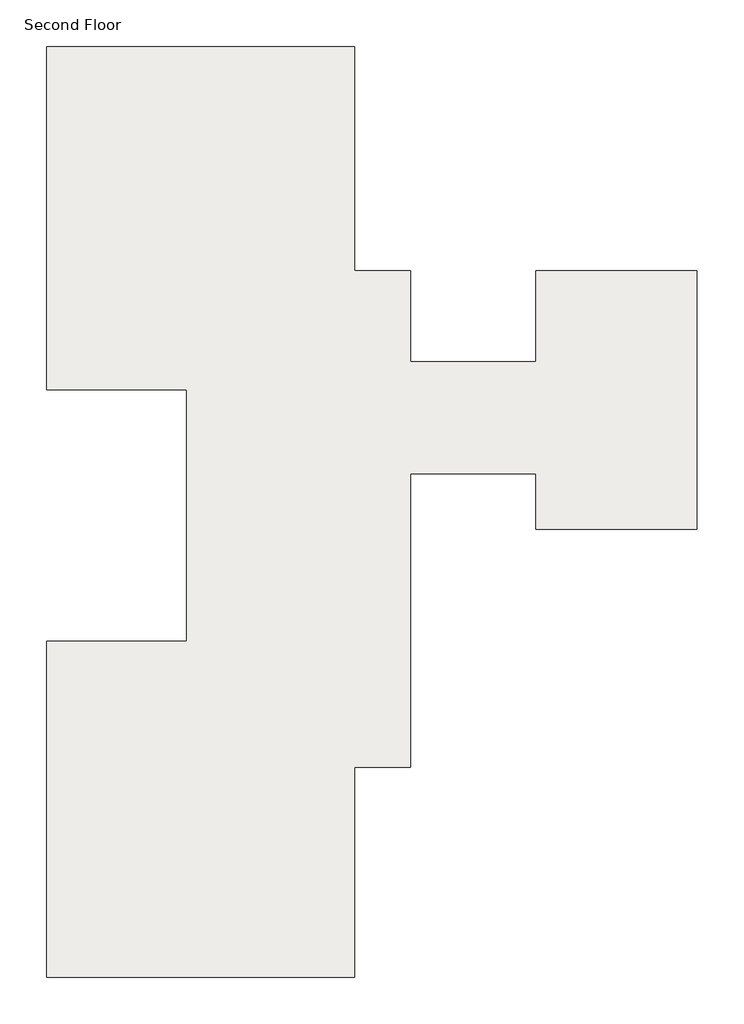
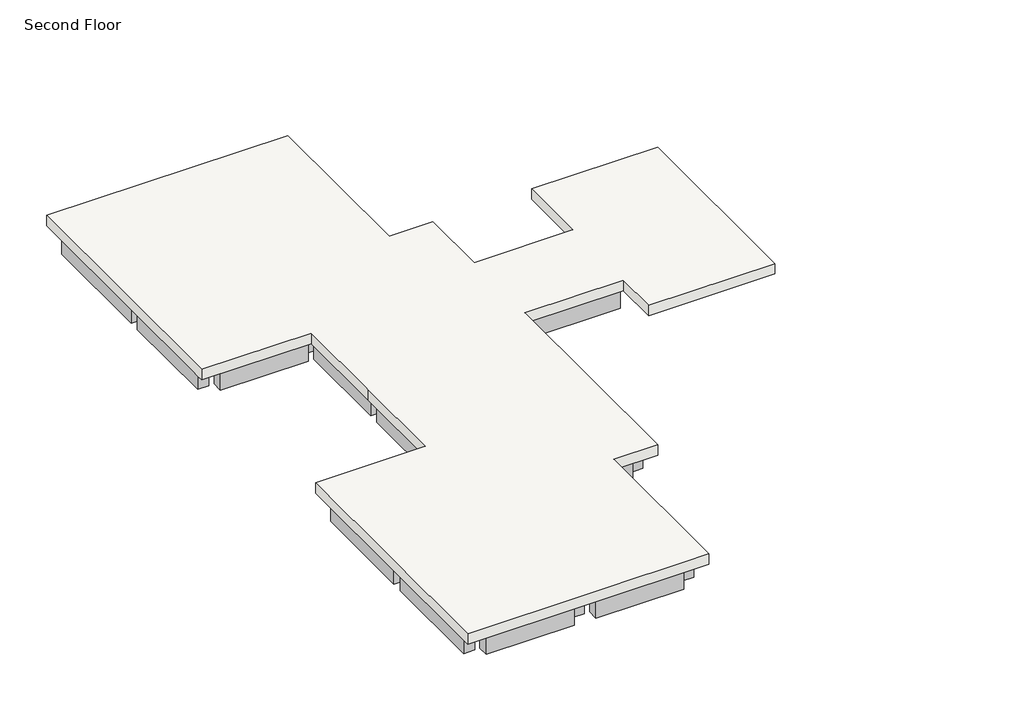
# One storey: 37 beams, 1 slab.
"""IFC4 building model written with IfcOpenShell, lengths in millimetres."""

from ifc_helpers import new_model, si_unit, frame, origin, place, context, project, spatial, polyline, outline, extrude, faceted_brep, element, save

model = new_model("IFC4")

# Units and contexts
model_context = context("Model", 3, world=origin())
ifc_project = project(units=[si_unit("LENGTHUNIT", "METRE", prefix="MILLI")], contexts=[model_context])

# Site, building, storey
site = spatial("IfcSite", under=ifc_project)
building = spatial("IfcBuilding", under=site)
storey = spatial("IfcBuildingStorey", under=building, Name="Second Floor", Elevation=3810.0)

# Beams
placement = place(None, origin())
element("IfcBeam", 1, ObjectType="Concrete-Rectangular Beam : 12 x 24", at=placement, inside=storey, context=model_context, shape_type="SweptSolid", body=[
    extrude(outline(polyline([(-20351.2093661, 22096.7691779), (-20351.2093661, 22401.5691779), (-17912.8093661, 22401.5691779), (-17912.8093661, 22096.7691779), (-20351.2093661, 22096.7691779)])), frame((0.0, 0.0, 2895.6), z_axis=(0.0, 0.0, 1.0), x_axis=(1.0, 0.0, 0.0)), (0.0, 0.0, 1.0), 609.6),
])
element("IfcBeam", 2, ObjectType="Concrete-Rectangular Beam : 12 x 24", at=placement, inside=storey, context=model_context, shape_type="SweptSolid", body=[
    extrude(outline(polyline([(-17303.2093661, 22096.7691779), (-17303.2093661, 22401.5691779), (-14864.8093661, 22401.5691779), (-14864.8093661, 22096.7691779), (-17303.2093661, 22096.7691779)])), frame((0.0, 0.0, 2895.6), z_axis=(0.0, 0.0, 1.0), x_axis=(1.0, 0.0, 0.0)), (0.0, 0.0, 1.0), 609.6),
])
element("IfcBeam", 3, ObjectType="Concrete-Rectangular Beam : 12 x 24", at=placement, inside=storey, context=model_context, shape_type="SweptSolid", body=[
    extrude(outline(polyline([(-14712.4093661, 22096.7691779), (-14407.6093661, 22096.7691779), (-14407.6093661, 18743.9691779), (-14712.4093661, 18743.9691779), (-14712.4093661, 22096.7691779)])), frame((0.0, 0.0, 2895.6), z_axis=(0.0, 0.0, 1.0), x_axis=(1.0, 0.0, 0.0)), (0.0, 0.0, 1.0), 609.6),
])
element("IfcBeam", 4, ObjectType="Concrete-Rectangular Beam : 12 x 24", at=placement, inside=storey, context=model_context, shape_type="Brep", body=[
    faceted_brep([(-14712.4093661, 17219.9691779, 3505.2), (-14407.6093661, 17219.9691779, 3505.2), (-14407.6093661, 17524.7691779, 3505.2), (-14407.6093661, 18439.1691779, 3505.2), (-14712.4093661, 18439.1691779, 3505.2), (-14712.4093661, 17219.9691779, 2895.6), (-14712.4093661, 18439.1691779, 2895.6), (-14407.6093661, 17219.9691779, 2895.6), (-14407.6093661, 18439.1691779, 2895.6), (-14407.6093661, 17524.7691779, 2895.6)], [[[0, 1, 2, 3, 4]], [[5, 0, 4, 6]], [[7, 5, 6, 8, 9]], [[1, 7, 9, 8, 3, 2]], [[4, 3, 8, 6]], [[1, 0, 5, 7]]]),
])
element("IfcBeam", 5, ObjectType="Concrete-Rectangular Beam : 12 x 24", at=placement, inside=storey, context=model_context, shape_type="SweptSolid", body=[
    extrude(outline(polyline([(-14407.6093661, 17219.9691779), (-14407.6093661, 17524.7691779), (-13645.6093661, 17524.7691779), (-13645.6093661, 17219.9691779), (-14407.6093661, 17219.9691779)])), frame((0.0, 0.0, 2895.6), z_axis=(0.0, 0.0, 1.0), x_axis=(1.0, 0.0, 0.0)), (0.0, 0.0, 1.0), 609.6),
])
element("IfcBeam", 6, ObjectType="Concrete-Rectangular Beam : 12 x 24", at=placement, inside=storey, context=model_context, shape_type="SweptSolid", body=[
    extrude(outline(polyline([(-13493.2093661, 17219.9691779), (-13188.4093661, 17219.9691779), (-13188.4093661, 15543.5691779), (-13493.2093661, 15543.5691779), (-13493.2093661, 17219.9691779)])), frame((0.0, 0.0, 2895.6), z_axis=(0.0, 0.0, 1.0), x_axis=(1.0, 0.0, 0.0)), (0.0, 0.0, 1.0), 609.6),
])
element("IfcBeam", 7, ObjectType="Concrete-Rectangular Beam : 12 x 24", at=placement, inside=storey, context=model_context, shape_type="Brep", body=[
    faceted_brep([(-13188.4093661, 15238.7691779, 3505.2), (-13493.2093661, 15238.7691779, 3505.2), (-13493.2093661, 12495.5691779, 3505.2), (-13188.4093661, 12495.5691779, 3505.2), (-13188.4093661, 13409.9691779, 3505.2), (-13188.4093661, 13714.7691779, 3505.2), (-13493.2093661, 15238.7691779, 2895.6), (-13493.2093661, 12495.5691779, 2895.6), (-13188.4093661, 15238.7691779, 2895.6), (-13188.4093661, 13714.7691779, 2895.6), (-13188.4093661, 13409.9691779, 2895.6), (-13188.4093661, 12495.5691779, 2895.6)], [[[0, 1, 2, 3, 4, 5]], [[1, 6, 7, 2]], [[6, 8, 9, 10, 11, 7]], [[8, 0, 5, 4, 3, 11, 10, 9]], [[6, 1, 0, 8]], [[3, 2, 7, 11]]]),
])
element("IfcBeam", 8, ObjectType="Concrete-Rectangular Beam : 12 x 24", at=placement, inside=storey, context=model_context, shape_type="SweptSolid", body=[
    extrude(outline(polyline([(-13493.2093661, 12190.7691779), (-13188.4093661, 12190.7691779), (-13188.4093661, 9447.5691779), (-13493.2093661, 9447.5691779), (-13493.2093661, 12190.7691779)])), frame((0.0, 0.0, 2895.6), z_axis=(0.0, 0.0, 1.0), x_axis=(1.0, 0.0, 0.0)), (0.0, 0.0, 1.0), 609.6),
])
element("IfcBeam", 9, ObjectType="Concrete-Rectangular Beam : 12 x 24", at=placement, inside=storey, context=model_context, shape_type="SweptSolid", body=[
    extrude(outline(polyline([(-13493.2093661, 9142.7691779), (-13188.4093661, 9142.7691779), (-13188.4093661, 7313.9691779), (-13493.2093661, 7313.9691779), (-13493.2093661, 9142.7691779)])), frame((0.0, 0.0, 2895.6), z_axis=(0.0, 0.0, 1.0), x_axis=(1.0, 0.0, 0.0)), (0.0, 0.0, 1.0), 609.6),
])
element("IfcBeam", 10, ObjectType="Concrete-Rectangular Beam : 12 x 24", at=placement, inside=storey, context=model_context, shape_type="Brep", body=[
    faceted_brep([(-14712.4093661, 7313.9691779, 3505.2), (-14712.4093661, 7009.1691779, 3505.2), (-14407.6093661, 7009.1691779, 3505.2), (-13645.6093661, 7009.1691779, 3505.2), (-13645.6093661, 7313.9691779, 3505.2), (-14712.4093661, 7313.9691779, 2895.6), (-13645.6093661, 7313.9691779, 2895.6), (-14712.4093661, 7009.1691779, 2895.6), (-13645.6093661, 7009.1691779, 2895.6), (-14407.6093661, 7009.1691779, 2895.6)], [[[0, 1, 2, 3, 4]], [[5, 0, 4, 6]], [[7, 5, 6, 8, 9]], [[1, 7, 9, 8, 3, 2]], [[4, 3, 8, 6]], [[1, 0, 5, 7]]]),
])
element("IfcBeam", 11, ObjectType="Concrete-Rectangular Beam : 12 x 24", at=placement, inside=storey, context=model_context, shape_type="SweptSolid", body=[
    extrude(outline(polyline([(-14712.4093661, 7009.1691779), (-14407.6093661, 7009.1691779), (-14407.6093661, 6094.7691779), (-14712.4093661, 6094.7691779), (-14712.4093661, 7009.1691779)])), frame((0.0, 0.0, 2895.6), z_axis=(0.0, 0.0, 1.0), x_axis=(1.0, 0.0, 0.0)), (0.0, 0.0, 1.0), 609.6),
])
element("IfcBeam", 12, ObjectType="Concrete-Rectangular Beam : 12 x 24", at=placement, inside=storey, context=model_context, shape_type="SweptSolid", body=[
    extrude(outline(polyline([(-14407.6093661, 2741.9691779), (-14712.4093661, 2741.9691779), (-14712.4093661, 5789.9691779), (-14407.6093661, 5789.9691779), (-14407.6093661, 2741.9691779)])), frame((0.0, 0.0, 2895.6), z_axis=(0.0, 0.0, 1.0), x_axis=(1.0, 0.0, 0.0)), (0.0, 0.0, 1.0), 609.6),
])
element("IfcBeam", 13, ObjectType="Concrete-Rectangular Beam : 12 x 24", at=placement, inside=storey, context=model_context, shape_type="SweptSolid", body=[
    extrude(outline(polyline([(-17303.2093661, 2437.1691779), (-17303.2093661, 2741.9691779), (-14864.8093661, 2741.9691779), (-14864.8093661, 2437.1691779), (-17303.2093661, 2437.1691779)])), frame((0.0, 0.0, 2895.6), z_axis=(0.0, 0.0, 1.0), x_axis=(1.0, 0.0, 0.0)), (0.0, 0.0, 1.0), 609.6),
])
element("IfcBeam", 14, ObjectType="Concrete-Rectangular Beam : 12 x 24", at=placement, inside=storey, context=model_context, shape_type="SweptSolid", body=[
    extrude(outline(polyline([(-20351.2093661, 2437.1691779), (-20351.2093661, 2741.9691779), (-17912.8093661, 2741.9691779), (-17912.8093661, 2437.1691779), (-20351.2093661, 2437.1691779)])), frame((0.0, 0.0, 2895.6), z_axis=(0.0, 0.0, 1.0), x_axis=(1.0, 0.0, 0.0)), (0.0, 0.0, 1.0), 609.6),
])
element("IfcBeam", 15, ObjectType="Concrete-Rectangular Beam : 12 x 24", at=placement, inside=storey, context=model_context, shape_type="SweptSolid", body=[
    extrude(outline(polyline([(-20503.6093661, 2741.9691779), (-20808.4093661, 2741.9691779), (-20808.4093661, 5789.9691779), (-20503.6093661, 5789.9691779), (-20503.6093661, 2741.9691779)])), frame((0.0, 0.0, 2895.6), z_axis=(0.0, 0.0, 1.0), x_axis=(1.0, 0.0, 0.0)), (0.0, 0.0, 1.0), 609.6),
])
element("IfcBeam", 16, ObjectType="Concrete-Rectangular Beam : 12 x 24", at=placement, inside=storey, context=model_context, shape_type="SweptSolid", body=[
    extrude(outline(polyline([(-20808.4093661, 9142.7691779), (-20503.6093661, 9142.7691779), (-20503.6093661, 6094.7691779), (-20808.4093661, 6094.7691779), (-20808.4093661, 9142.7691779)])), frame((0.0, 0.0, 2895.6), z_axis=(0.0, 0.0, 1.0), x_axis=(1.0, 0.0, 0.0)), (0.0, 0.0, 1.0), 609.6),
])
element("IfcBeam", 17, ObjectType="Concrete-Rectangular Beam : 12 x 24", at=placement, inside=storey, context=model_context, shape_type="SweptSolid", body=[
    extrude(outline(polyline([(-20351.2093661, 9142.7691779), (-20351.2093661, 9447.5691779), (-17912.8093661, 9447.5691779), (-17912.8093661, 9142.7691779), (-20351.2093661, 9142.7691779)])), frame((0.0, 0.0, 2895.6), z_axis=(0.0, 0.0, 1.0), x_axis=(1.0, 0.0, 0.0)), (0.0, 0.0, 1.0), 609.6),
])
element("IfcBeam", 18, ObjectType="Concrete-Rectangular Beam : 12 x 24", at=placement, inside=storey, context=model_context, shape_type="SweptSolid", body=[
    extrude(outline(polyline([(-17760.4093661, 9142.7691779), (-17455.6093661, 9142.7691779), (-17455.6093661, 6094.7691779), (-17760.4093661, 6094.7691779), (-17760.4093661, 9142.7691779)])), frame((0.0, 0.0, 2895.6), z_axis=(0.0, 0.0, 1.0), x_axis=(1.0, 0.0, 0.0)), (0.0, 0.0, 1.0), 609.6),
])
element("IfcBeam", 19, ObjectType="Concrete-Rectangular Beam : 12 x 24", at=placement, inside=storey, context=model_context, shape_type="SweptSolid", body=[
    extrude(outline(polyline([(-17455.6093661, 2741.9691779), (-17760.4093661, 2741.9691779), (-17760.4093661, 5789.9691779), (-17455.6093661, 5789.9691779), (-17455.6093661, 2741.9691779)])), frame((0.0, 0.0, 2895.6), z_axis=(0.0, 0.0, 1.0), x_axis=(1.0, 0.0, 0.0)), (0.0, 0.0, 1.0), 609.6),
])
element("IfcBeam", 20, ObjectType="Concrete-Rectangular Beam : 12 x 24", at=placement, inside=storey, context=model_context, shape_type="SweptSolid", body=[
    extrude(outline(polyline([(-17455.6093661, 9447.5691779), (-17760.4093661, 9447.5691779), (-17760.4093661, 12190.7691779), (-17455.6093661, 12190.7691779), (-17455.6093661, 9447.5691779)])), frame((0.0, 0.0, 2895.6), z_axis=(0.0, 0.0, 1.0), x_axis=(1.0, 0.0, 0.0)), (0.0, 0.0, 1.0), 609.6),
])
element("IfcBeam", 21, ObjectType="Concrete-Rectangular Beam : 12 x 24", at=placement, inside=storey, context=model_context, shape_type="SweptSolid", body=[
    extrude(outline(polyline([(-17760.4093661, 15238.7691779), (-17455.6093661, 15238.7691779), (-17455.6093661, 12495.5691779), (-17760.4093661, 12495.5691779), (-17760.4093661, 15238.7691779)])), frame((0.0, 0.0, 2895.6), z_axis=(0.0, 0.0, 1.0), x_axis=(1.0, 0.0, 0.0)), (0.0, 0.0, 1.0), 609.6),
])
element("IfcBeam", 22, ObjectType="Concrete-Rectangular Beam : 12 x 24", at=placement, inside=storey, context=model_context, shape_type="SweptSolid", body=[
    extrude(outline(polyline([(-20351.2093661, 15238.7691779), (-20351.2093661, 15543.5691779), (-17912.8093661, 15543.5691779), (-17912.8093661, 15238.7691779), (-20351.2093661, 15238.7691779)])), frame((0.0, 0.0, 2895.6), z_axis=(0.0, 0.0, 1.0), x_axis=(1.0, 0.0, 0.0)), (0.0, 0.0, 1.0), 609.6),
])
element("IfcBeam", 23, ObjectType="Concrete-Rectangular Beam : 12 x 24", at=placement, inside=storey, context=model_context, shape_type="SweptSolid", body=[
    extrude(outline(polyline([(-20503.6093661, 15543.5691779), (-20808.4093661, 15543.5691779), (-20808.4093661, 18439.1691779), (-20503.6093661, 18439.1691779), (-20503.6093661, 15543.5691779)])), frame((0.0, 0.0, 2895.6), z_axis=(0.0, 0.0, 1.0), x_axis=(1.0, 0.0, 0.0)), (0.0, 0.0, 1.0), 609.6),
])
element("IfcBeam", 24, ObjectType="Concrete-Rectangular Beam : 12 x 24", at=placement, inside=storey, context=model_context, shape_type="SweptSolid", body=[
    extrude(outline(polyline([(-20808.4093661, 22096.7691779), (-20503.6093661, 22096.7691779), (-20503.6093661, 18743.9691779), (-20808.4093661, 18743.9691779), (-20808.4093661, 22096.7691779)])), frame((0.0, 0.0, 2895.6), z_axis=(0.0, 0.0, 1.0), x_axis=(1.0, 0.0, 0.0)), (0.0, 0.0, 1.0), 609.6),
])
element("IfcBeam", 25, ObjectType="Concrete-Rectangular Beam : 12 x 24", at=placement, inside=storey, context=model_context, shape_type="SweptSolid", body=[
    extrude(outline(polyline([(-20351.2093661, 18439.1691779), (-20351.2093661, 18743.9691779), (-17912.8093661, 18743.9691779), (-17912.8093661, 18439.1691779), (-20351.2093661, 18439.1691779)])), frame((0.0, 0.0, 2895.6), z_axis=(0.0, 0.0, 1.0), x_axis=(1.0, 0.0, 0.0)), (0.0, 0.0, 1.0), 609.6),
])
element("IfcBeam", 26, ObjectType="Concrete-Rectangular Beam : 12 x 24", at=placement, inside=storey, context=model_context, shape_type="SweptSolid", body=[
    extrude(outline(polyline([(-17455.6093661, 18743.9691779), (-17760.4093661, 18743.9691779), (-17760.4093661, 22096.7691779), (-17455.6093661, 22096.7691779), (-17455.6093661, 18743.9691779)])), frame((0.0, 0.0, 2895.6), z_axis=(0.0, 0.0, 1.0), x_axis=(1.0, 0.0, 0.0)), (0.0, 0.0, 1.0), 609.6),
])
element("IfcBeam", 27, ObjectType="Concrete-Rectangular Beam : 12 x 24", at=placement, inside=storey, context=model_context, shape_type="SweptSolid", body=[
    extrude(outline(polyline([(-17760.4093661, 18439.1691779), (-17455.6093661, 18439.1691779), (-17455.6093661, 15543.5691779), (-17760.4093661, 15543.5691779), (-17760.4093661, 18439.1691779)])), frame((0.0, 0.0, 2895.6), z_axis=(0.0, 0.0, 1.0), x_axis=(1.0, 0.0, 0.0)), (0.0, 0.0, 1.0), 609.6),
])
element("IfcBeam", 28, ObjectType="Concrete-Rectangular Beam : 12 x 24", at=placement, inside=storey, context=model_context, shape_type="SweptSolid", body=[
    extrude(outline(polyline([(-20351.2093661, 5789.9691779), (-20351.2093661, 6094.7691779), (-17912.8093661, 6094.7691779), (-17912.8093661, 5789.9691779), (-20351.2093661, 5789.9691779)])), frame((0.0, 0.0, 2895.6), z_axis=(0.0, 0.0, 1.0), x_axis=(1.0, 0.0, 0.0)), (0.0, 0.0, 1.0), 609.6),
])
element("IfcBeam", 29, ObjectType="Concrete-Rectangular Beam : 12 x 24", at=placement, inside=storey, context=model_context, shape_type="SweptSolid", body=[
    extrude(outline(polyline([(-17303.2093661, 5789.9691779), (-17303.2093661, 6094.7691779), (-14864.8093661, 6094.7691779), (-14864.8093661, 5789.9691779), (-17303.2093661, 5789.9691779)])), frame((0.0, 0.0, 2895.6), z_axis=(0.0, 0.0, 1.0), x_axis=(1.0, 0.0, 0.0)), (0.0, 0.0, 1.0), 609.6),
])
element("IfcBeam", 30, ObjectType="Concrete-Rectangular Beam : 12 x 24", at=placement, inside=storey, context=model_context, shape_type="SweptSolid", body=[
    extrude(outline(polyline([(-17303.2093661, 9142.7691779), (-17303.2093661, 9447.5691779), (-13645.6093661, 9447.5691779), (-13645.6093661, 9142.7691779), (-17303.2093661, 9142.7691779)])), frame((0.0, 0.0, 2895.6), z_axis=(0.0, 0.0, 1.0), x_axis=(1.0, 0.0, 0.0)), (0.0, 0.0, 1.0), 609.6),
])
element("IfcBeam", 31, ObjectType="Concrete-Rectangular Beam : 12 x 24", at=placement, inside=storey, context=model_context, shape_type="SweptSolid", body=[
    extrude(outline(polyline([(-13645.6093661, 12495.5691779), (-13645.6093661, 12190.7691779), (-17303.2093661, 12190.7691779), (-17303.2093661, 12495.5691779), (-13645.6093661, 12495.5691779)])), frame((0.0, 0.0, 2895.6), z_axis=(0.0, 0.0, 1.0), x_axis=(1.0, 0.0, 0.0)), (0.0, 0.0, 1.0), 609.6),
])
element("IfcBeam", 32, ObjectType="Concrete-Rectangular Beam : 12 x 24", at=placement, inside=storey, context=model_context, shape_type="SweptSolid", body=[
    extrude(outline(polyline([(-17303.2093661, 15238.7691779), (-17303.2093661, 15543.5691779), (-13645.6093661, 15543.5691779), (-13645.6093661, 15238.7691779), (-17303.2093661, 15238.7691779)])), frame((0.0, 0.0, 2895.6), z_axis=(0.0, 0.0, 1.0), x_axis=(1.0, 0.0, 0.0)), (0.0, 0.0, 1.0), 609.6),
])
element("IfcBeam", 33, ObjectType="Concrete-Rectangular Beam : 12 x 24", at=placement, inside=storey, context=model_context, shape_type="SweptSolid", body=[
    extrude(outline(polyline([(-17303.2093661, 18439.1691779), (-17303.2093661, 18743.9691779), (-14864.8093661, 18743.9691779), (-14864.8093661, 18439.1691779), (-17303.2093661, 18439.1691779)])), frame((0.0, 0.0, 2895.6), z_axis=(0.0, 0.0, 1.0), x_axis=(1.0, 0.0, 0.0)), (0.0, 0.0, 1.0), 609.6),
])
element("IfcBeam", 34, ObjectType="Concrete-Rectangular Beam : 12 x 24", at=placement, inside=storey, context=model_context, shape_type="SweptSolid", body=[
    extrude(outline(polyline([(-10292.8093661, 13714.7691779), (-10292.8093661, 13409.9691779), (-13188.4093661, 13409.9691779), (-13188.4093661, 13714.7691779), (-10292.8093661, 13714.7691779)])), frame((0.0, 0.0, 2895.6), z_axis=(0.0, 0.0, 1.0), x_axis=(1.0, 0.0, 0.0)), (0.0, 0.0, 1.0), 609.6),
])
element("IfcBeam", 35, ObjectType="Concrete-Rectangular Beam : 12 x 24", at=placement, inside=storey, context=model_context, shape_type="SweptSolid", body=[
    extrude(outline(polyline([(-10292.8093661, 15543.5691779), (-10292.8093661, 15238.7691779), (-13036.0093661, 15238.7691779), (-13036.0093661, 15543.5691779), (-10292.8093661, 15543.5691779)])), frame((0.0, 0.0, 2895.6), z_axis=(0.0, 0.0, 1.0), x_axis=(1.0, 0.0, 0.0)), (0.0, 0.0, 1.0), 609.6),
])
element("IfcBeam", 36, ObjectType="Concrete-Rectangular Beam : 12 x 24", at=placement, inside=storey, context=model_context, shape_type="SweptSolid", body=[
    extrude(outline(polyline([(-9683.2093661, 15238.7691779), (-9683.2093661, 15543.5691779), (-7397.2093661, 15543.5691779), (-7397.2093661, 15238.7691779), (-9683.2093661, 15238.7691779)])), frame((0.0, 0.0, 2895.6), z_axis=(0.0, 0.0, 1.0), x_axis=(1.0, 0.0, 0.0)), (0.0, 0.0, 1.0), 609.6),
])
element("IfcBeam", 37, ObjectType="Concrete-Rectangular Beam : 12 x 24", at=placement, inside=storey, context=model_context, shape_type="SweptSolid", body=[
    extrude(outline(polyline([(-9683.2093661, 13409.9691779), (-9683.2093661, 13714.7691779), (-7397.2093661, 13714.7691779), (-7397.2093661, 13409.9691779), (-9683.2093661, 13409.9691779)])), frame((0.0, 0.0, 2895.6), z_axis=(0.0, 0.0, 1.0), x_axis=(1.0, 0.0, 0.0)), (0.0, 0.0, 1.0), 609.6),
])

# Slab
element("IfcSlab", 38, ObjectType="Generic - 12\"", at=placement, inside=storey, context=model_context, shape_type="Brep", body=[
    faceted_brep([(-14255.2093661, 22553.9691779, 3505.2), (-14255.2093661, 22401.5691779, 3505.2), (-14255.2093661, 22096.7691779, 3505.2), (-14255.2093661, 18743.9691779, 3505.2), (-14255.2093661, 18439.1691779, 3505.2), (-14255.2093661, 17677.1691779, 3505.2), (-13036.0093661, 17677.1691779, 3505.2), (-13036.0093661, 17524.7691779, 3505.2), (-13036.0093661, 17219.9691779, 3505.2), (-13036.0093661, 15695.9691779, 3505.2), (-10292.8093661, 15695.9691779, 3505.2), (-10292.8093661, 17677.1691779, 3505.2), (-6787.6093661, 17677.1691779, 3505.2), (-6787.6093661, 15543.5691779, 3505.2), (-6787.6093661, 15238.7691779, 3505.2), (-6787.6093661, 13714.7691779, 3505.2), (-6787.6093661, 13409.9691779, 3505.2), (-6787.6093661, 12038.3691779, 3505.2), (-10292.8093661, 12038.3691779, 3505.2), (-10292.8093661, 13257.5691779, 3505.2), (-13036.0093661, 13257.5691779, 3505.2), (-13036.0093661, 12495.5691779, 3505.2), (-13036.0093661, 12190.7691779, 3505.2), (-13036.0093661, 9447.5691779, 3505.2), (-13036.0093661, 9142.7691779, 3505.2), (-13036.0093661, 7313.9691779, 3505.2), (-13036.0093661, 7009.1691779, 3505.2), (-13036.0093661, 6856.7691779, 3505.2), (-14255.2093661, 6856.7691779, 3505.2), (-14255.2093661, 6094.7691779, 3505.2), (-14255.2093661, 5789.9691779, 3505.2), (-14255.2093661, 2741.9691779, 3505.2), (-14255.2093661, 2437.1691779, 3505.2), (-14255.2093661, 2284.7691779, 3505.2), (-20960.8093661, 2284.7691779, 3505.2), (-20960.8093661, 2437.1691779, 3505.2), (-20960.8093661, 2741.9691779, 3505.2), (-20960.8093661, 5789.9691779, 3505.2), (-20960.8093661, 6094.7691779, 3505.2), (-20960.8093661, 9142.7691779, 3505.2), (-20960.8093661, 9447.5691779, 3505.2), (-20960.8093661, 9599.9691779, 3505.2), (-17912.8093661, 9599.9691779, 3505.2), (-17912.8093661, 12190.7691779, 3505.2), (-17912.8093661, 12343.1691779, 3505.2), (-17912.8093661, 12495.5691779, 3505.2), (-17912.8093661, 15086.3691779, 3505.2), (-20960.8093661, 15086.3691779, 3505.2), (-20960.8093661, 15238.7691779, 3505.2), (-20960.8093661, 15543.5691779, 3505.2), (-20960.8093661, 18439.1691779, 3505.2), (-20960.8093661, 18743.9691779, 3505.2), (-20960.8093661, 22096.7691779, 3505.2), (-20960.8093661, 22401.5691779, 3505.2), (-20960.8093661, 22553.9691779, 3505.2), (-14255.2093661, 22553.9691779, 3810.0), (-20960.8093661, 22553.9691779, 3810.0), (-20960.8093661, 15086.3691779, 3810.0), (-17912.8093661, 15086.3691779, 3810.0), (-17912.8093661, 12343.1691779, 3810.0), (-17912.8093661, 9599.9691779, 3810.0), (-20960.8093661, 9599.9691779, 3810.0), (-20960.8093661, 2284.7691779, 3810.0), (-14255.2093661, 2284.7691779, 3810.0), (-14255.2093661, 6856.7691779, 3810.0), (-13036.0093661, 6856.7691779, 3810.0), (-13036.0093661, 13257.5691779, 3810.0), (-10292.8093661, 13257.5691779, 3810.0), (-10292.8093661, 12038.3691779, 3810.0), (-6787.6093661, 12038.3691779, 3810.0), (-6787.6093661, 17677.1691779, 3810.0), (-10292.8093661, 17677.1691779, 3810.0), (-10292.8093661, 15695.9691779, 3810.0), (-13036.0093661, 15695.9691779, 3810.0), (-13036.0093661, 17677.1691779, 3810.0), (-14255.2093661, 17677.1691779, 3810.0)], [[[0, 1, 2, 3, 4, 5, 6, 7, 8, 9, 10, 11, 12, 13, 14, 15, 16, 17, 18, 19, 20, 21, 22, 23, 24, 25, 26, 27, 28, 29, 30, 31, 32, 33, 34, 35, 36, 37, 38, 39, 40, 41, 42, 43, 44, 45, 46, 47, 48, 49, 50, 51, 52, 53, 54]], [[55, 56, 57, 58, 59, 60, 61, 62, 63, 64, 65, 66, 67, 68, 69, 70, 71, 72, 73, 74, 75]], [[5, 4, 3, 2, 1, 0, 55, 75]], [[6, 5, 75, 74]], [[9, 8, 7, 6, 74, 73]], [[10, 9, 73, 72]], [[11, 10, 72, 71]], [[12, 11, 71, 70]], [[17, 16, 15, 14, 13, 12, 70, 69]], [[18, 17, 69, 68]], [[19, 18, 68, 67]], [[20, 19, 67, 66]], [[27, 26, 25, 24, 23, 22, 21, 20, 66, 65]], [[28, 27, 65, 64]], [[33, 32, 31, 30, 29, 28, 64, 63]], [[34, 33, 63, 62]], [[41, 40, 39, 38, 37, 36, 35, 34, 62, 61]], [[42, 41, 61, 60]], [[44, 43, 42, 60, 59]], [[46, 45, 44, 59, 58]], [[47, 46, 58, 57]], [[54, 53, 52, 51, 50, 49, 48, 47, 57, 56]], [[0, 54, 56, 55]]]),
])

save(model, "model.ifc")
